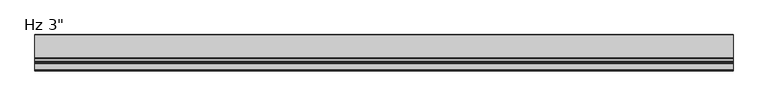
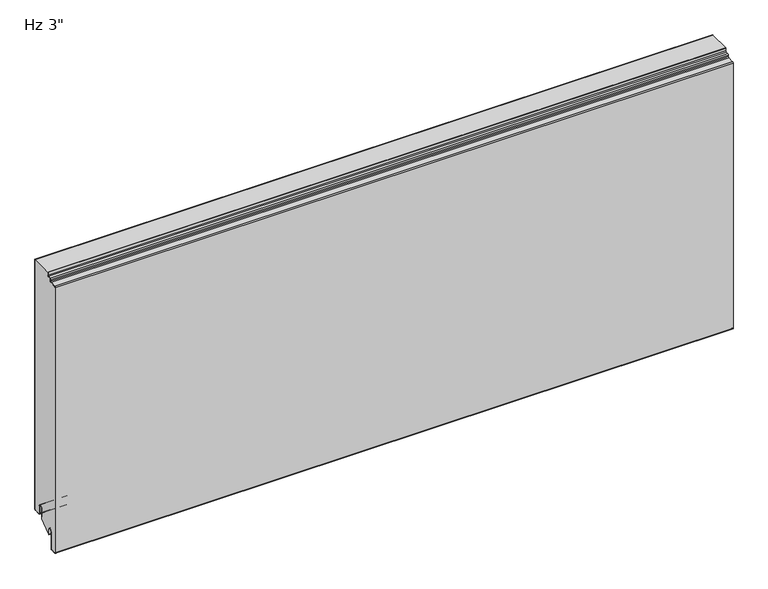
"""IFC4 building model written with IfcOpenShell, lengths in millimetres: plate geometry."""

from ifc_helpers import new_model, si_unit, point, frame, frame_2d, origin, place, context, project, spatial, polyline, circle_curve, trimmed, segment, composite_curve, outline, extrude, source, transform, mapped, element, save


def plate_0189f967(model_context):
    return source(origin(), model_context, "Body", "SweptSolid", [
        extrude(outline(composite_curve([segment(trimmed(circle_curve(frame_2d((-21.43125, 19.05)), 4.96875), [point((-16.4625, 19.05))], [point((-26.4, 19.05))], True, "CARTESIAN"), True, "CONTINUOUS"), segment(polyline([(-26.4, 19.05), (-26.4, -3.1323422), (-49.2157227, -23.01875), (-50.8, -23.01875), (-50.8, -13.5080174), (-51.59375, -13.5080174), (-51.3875, -11.9205174)]), True, "CONTINUOUS"), segment(trimmed(circle_curve(frame_2d((-56.35625, -11.9205174)), 4.96875), [point((-51.3875, -11.9205174))], [point((-61.325, -11.9205174))], True, "CARTESIAN"), True, "CONTINUOUS"), segment(polyline([(-61.325, -11.9205174), (-61.325, -50.1038221)]), True, "CONTINUOUS"), segment(trimmed(circle_curve(frame_2d((-62.70625, -50.1038221)), 1.38125), [point((-61.325, -50.1038221))], [point((-62.633961, -51.4831791))], False, "CARTESIAN"), True, "CONTINUOUS"), segment(polyline([(-62.633961, -51.4831791), (-73.746461, -52.0655606)]), True, "CONTINUOUS"), segment(trimmed(circle_curve(frame_2d((-73.81875, -50.6862035)), 1.38125), [point((-73.746461, -52.0655606))], [point((-75.2, -50.6862035))], False, "CARTESIAN"), True, "CONTINUOUS"), segment(polyline([(-75.2, -50.6862035), (-75.2, 552.5572607)]), True, "CONTINUOUS"), segment(trimmed(circle_curve(frame_2d((-73.81875, 552.5572607)), 1.38125), [point((-75.2, 552.5572607))], [point((-73.891039, 553.9366177))], False, "CARTESIAN"), True, "CONTINUOUS"), segment(polyline([(-73.891039, 553.9366177), (-60.1895807, 554.6546807)]), True, "CONTINUOUS"), segment(trimmed(circle_curve(frame_2d((-60.325, 557.2386347)), 2.5875), [point((-60.1895807, 554.6546807))], [point((-57.7375, 557.2386347))], True, "CARTESIAN"), True, "CONTINUOUS"), segment(polyline([(-57.7375, 557.2386347), (-57.7375, 560.2824411)]), True, "CONTINUOUS"), segment(trimmed(circle_curve(frame_2d((-56.35625, 560.2824411)), 1.38125), [point((-57.7375, 560.2824411))], [point((-56.428539, 561.6617981))], False, "CARTESIAN"), True, "CONTINUOUS"), segment(polyline([(-56.428539, 561.6617981), (-50.6645807, 561.9638744)]), True, "CONTINUOUS"), segment(trimmed(circle_curve(frame_2d((-50.8, 564.5478283)), 2.5875), [point((-50.6645807, 561.9638744))], [point((-48.2125, 564.5478283))], True, "CARTESIAN"), True, "CONTINUOUS"), segment(polyline([(-48.2125, 564.5478283), (-48.2125, 571.2), (-1.0, 571.2), (-1.0, 3.175)]), True, "CONTINUOUS"), segment(trimmed(circle_curve(frame_2d((-2.38125, 3.175)), 1.38125), [point((-1.0, 3.175))], [point((-2.38125, 1.79375))], False, "CARTESIAN"), True, "CONTINUOUS"), segment(polyline([(-2.38125, 1.79375), (-15.08125, 1.79375)]), True, "CONTINUOUS"), segment(trimmed(circle_curve(frame_2d((-15.08125, 3.175)), 1.38125), [point((-15.08125, 1.79375))], [point((-16.4625, 3.175))], False, "CARTESIAN"), True, "CONTINUOUS"), segment(polyline([(-16.4625, 3.175), (-16.4625, 19.05)]), True, "CONTINUOUS")], self_intersect=False)), frame((-730.0, 0.0, 0.0), z_axis=(1.0, 0.0, 0.0), x_axis=(0.0, 1.0, 0.0)), (0.0, 0.0, 1.0), 1460.0),
        extrude(outline(composite_curve([segment(polyline([(-25.4, 0.79375), (-26.4, 0.79375), (-26.4, 19.05)]), True, "CONTINUOUS"), segment(trimmed(circle_curve(frame_2d((-21.43125, 19.05)), 4.96875), [point((-26.4, 19.05))], [point((-16.4625, 19.05))], False, "CARTESIAN"), True, "CONTINUOUS"), segment(polyline([(-16.4625, 19.05), (-16.4625, 3.175)]), True, "CONTINUOUS"), segment(trimmed(circle_curve(frame_2d((-15.08125, 3.175)), 1.38125), [point((-16.4625, 3.175))], [point((-15.08125, 1.79375))], True, "CARTESIAN"), True, "CONTINUOUS"), segment(polyline([(-15.08125, 1.79375), (-2.38125, 1.79375)]), True, "CONTINUOUS"), segment(trimmed(circle_curve(frame_2d((-2.38125, 3.175)), 1.38125), [point((-2.38125, 1.79375))], [point((-1.0, 3.175))], True, "CARTESIAN"), True, "CONTINUOUS"), segment(polyline([(-1.0, 3.175), (-1.0, 571.2), (0.0, 571.2), (0.0, 3.175)]), True, "CONTINUOUS"), segment(trimmed(circle_curve(frame_2d((-2.38125, 3.175)), 2.38125), [point((0.0, 3.175))], [point((-2.38125, 0.79375))], False, "CARTESIAN"), True, "CONTINUOUS"), segment(polyline([(-2.38125, 0.79375), (-15.08125, 0.79375)]), True, "CONTINUOUS"), segment(trimmed(circle_curve(frame_2d((-15.08125, 3.175)), 2.38125), [point((-15.08125, 0.79375))], [point((-17.4625, 3.175))], False, "CARTESIAN"), True, "CONTINUOUS"), segment(polyline([(-17.4625, 3.175), (-17.4625, 19.05)]), True, "CONTINUOUS"), segment(trimmed(circle_curve(frame_2d((-21.43125, 19.05)), 3.96875), [point((-17.4625, 19.05))], [point((-25.4, 19.05))], True, "CARTESIAN"), True, "CONTINUOUS"), segment(polyline([(-25.4, 19.05), (-25.4, 0.79375)]), True, "CONTINUOUS")], self_intersect=False)), frame((-730.0, 0.0, 0.0), z_axis=(1.0, 0.0, 0.0), x_axis=(0.0, 1.0, 0.0)), (0.0, 0.0, 1.0), 1460.0),
        extrude(outline(composite_curve([segment(trimmed(circle_curve(frame_2d((-51.59375, -23.2314549)), 0.79375), [point((-50.8, -23.2314549))], [point((-52.3875, -23.2314549))], False, "CARTESIAN"), True, "CONTINUOUS"), segment(polyline([(-52.3875, -23.2314549), (-52.3875, -11.9205174)]), True, "CONTINUOUS"), segment(trimmed(circle_curve(frame_2d((-56.35625, -11.9205174)), 3.96875), [point((-52.3875, -11.9205174))], [point((-60.325, -11.9205174))], True, "CARTESIAN"), True, "CONTINUOUS"), segment(polyline([(-60.325, -11.9205174), (-60.325, -50.1038221)]), True, "CONTINUOUS"), segment(trimmed(circle_curve(frame_2d((-62.70625, -50.1038221)), 2.38125), [point((-60.325, -50.1038221))], [point((-62.581625, -52.4818086))], False, "CARTESIAN"), True, "CONTINUOUS"), segment(polyline([(-62.581625, -52.4818086), (-73.694125, -53.0641901)]), True, "CONTINUOUS"), segment(trimmed(circle_curve(frame_2d((-73.81875, -50.6862035)), 2.38125), [point((-73.694125, -53.0641901))], [point((-76.2, -50.6862035))], False, "CARTESIAN"), True, "CONTINUOUS"), segment(polyline([(-76.2, -50.6862035), (-76.2, 552.5572607)]), True, "CONTINUOUS"), segment(trimmed(circle_curve(frame_2d((-73.81875, 552.5572607)), 2.38125), [point((-76.2, 552.5572607))], [point((-73.943375, 554.9352473))], False, "CARTESIAN"), True, "CONTINUOUS"), segment(polyline([(-73.943375, 554.9352473), (-60.2419167, 555.6533103)]), True, "CONTINUOUS"), segment(trimmed(circle_curve(frame_2d((-60.325, 557.2386347)), 1.5875), [point((-60.2419167, 555.6533103))], [point((-58.7375, 557.2386347))], True, "CARTESIAN"), True, "CONTINUOUS"), segment(polyline([(-58.7375, 557.2386347), (-58.7375, 560.2824411)]), True, "CONTINUOUS"), segment(trimmed(circle_curve(frame_2d((-56.35625, 560.2824411)), 2.38125), [point((-58.7375, 560.2824411))], [point((-56.480875, 562.6604276))], False, "CARTESIAN"), True, "CONTINUOUS"), segment(polyline([(-56.480875, 562.6604276), (-50.7169167, 562.9625039)]), True, "CONTINUOUS"), segment(trimmed(circle_curve(frame_2d((-50.8, 564.5478283)), 1.5875), [point((-50.7169167, 562.9625039))], [point((-49.2125, 564.5478283))], True, "CARTESIAN"), True, "CONTINUOUS"), segment(polyline([(-49.2125, 564.5478283), (-49.2125, 571.2), (-48.2125, 571.2), (-48.2125, 564.5478283)]), True, "CONTINUOUS"), segment(trimmed(circle_curve(frame_2d((-50.8, 564.5478283)), 2.5875), [point((-48.2125, 564.5478283))], [point((-50.6645807, 561.9638744))], False, "CARTESIAN"), True, "CONTINUOUS"), segment(polyline([(-50.6645807, 561.9638744), (-56.428539, 561.6617981)]), True, "CONTINUOUS"), segment(trimmed(circle_curve(frame_2d((-56.35625, 560.2824411)), 1.38125), [point((-56.428539, 561.6617981))], [point((-57.7375, 560.2824411))], True, "CARTESIAN"), True, "CONTINUOUS"), segment(polyline([(-57.7375, 560.2824411), (-57.7375, 557.2386347)]), True, "CONTINUOUS"), segment(trimmed(circle_curve(frame_2d((-60.325, 557.2386347)), 2.5875), [point((-57.7375, 557.2386347))], [point((-60.1895807, 554.6546807))], False, "CARTESIAN"), True, "CONTINUOUS"), segment(polyline([(-60.1895807, 554.6546807), (-73.891039, 553.9366177)]), True, "CONTINUOUS"), segment(trimmed(circle_curve(frame_2d((-73.81875, 552.5572607)), 1.38125), [point((-73.891039, 553.9366177))], [point((-75.2, 552.5572607))], True, "CARTESIAN"), True, "CONTINUOUS"), segment(polyline([(-75.2, 552.5572607), (-75.2, -50.6862035)]), True, "CONTINUOUS"), segment(trimmed(circle_curve(frame_2d((-73.81875, -50.6862035)), 1.38125), [point((-75.2, -50.6862035))], [point((-73.746461, -52.0655606))], True, "CARTESIAN"), True, "CONTINUOUS"), segment(polyline([(-73.746461, -52.0655606), (-62.633961, -51.4831791)]), True, "CONTINUOUS"), segment(trimmed(circle_curve(frame_2d((-62.70625, -50.1038221)), 1.38125), [point((-62.633961, -51.4831791))], [point((-61.325, -50.1038221))], True, "CARTESIAN"), True, "CONTINUOUS"), segment(polyline([(-61.325, -50.1038221), (-61.325, -11.9205174)]), True, "CONTINUOUS"), segment(trimmed(circle_curve(frame_2d((-56.35625, -11.9205174)), 4.96875), [point((-61.325, -11.9205174))], [point((-51.3875, -11.9205174))], False, "CARTESIAN"), True, "CONTINUOUS"), segment(polyline([(-51.3875, -11.9205174), (-51.59375, -13.5080174), (-50.8, -13.5080174), (-50.8, -23.2314549)]), True, "CONTINUOUS")], self_intersect=False)), frame((-730.0, 0.0, 0.0), z_axis=(1.0, 0.0, 0.0), x_axis=(0.0, 1.0, 0.0)), (0.0, 0.0, 1.0), 1460.0),
    ])


if __name__ == "__main__":
    model = new_model("IFC4")
    model_context = context("Model", 3, world=origin())
    ifc_project = project(units=[si_unit("LENGTHUNIT", "METRE", prefix="MILLI")], contexts=[model_context])
    site = spatial("IfcSite", under=ifc_project)
    building = spatial("IfcBuilding", under=site)
    placement = place(None, origin())
    plate_shape = plate_0189f967(model_context)
    element("IfcPlate", 1, ObjectType="KIP-24-DWTR-R19-CP-Hz-F : Hz 3\"", at=placement, inside=building, context=model_context, shape_type="MappedRepresentation", body=[
        mapped(plate_shape, transform((0.0, 0.0, 0.0), x_axis=(1.0, 0.0, 0.0), y_axis=(0.0, 1.0, 0.0), z_axis=(0.0, 0.0, 1.0))),
    ])
    save(model, "model.ifc")
